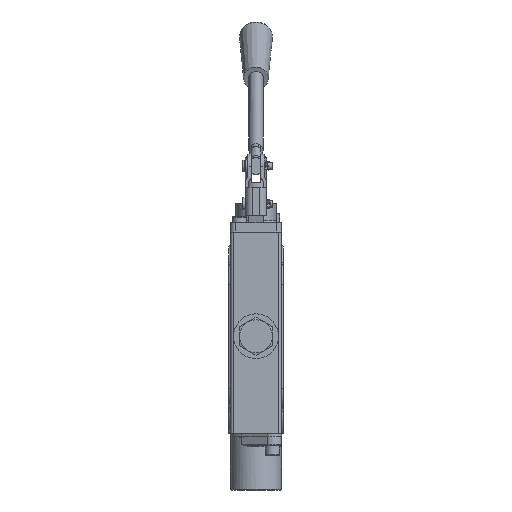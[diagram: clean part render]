
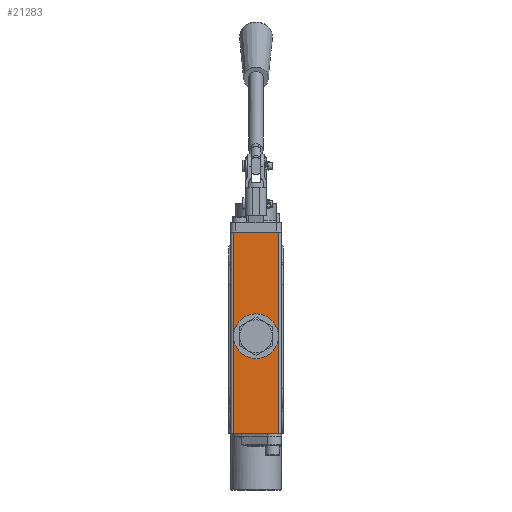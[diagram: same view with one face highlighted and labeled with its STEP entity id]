
A CAD part, front view. The second image highlights one B-rep face of the part: STEP entity #21283.
In plain terms, the highlighted planar face has unit normal (0, -1, 0).
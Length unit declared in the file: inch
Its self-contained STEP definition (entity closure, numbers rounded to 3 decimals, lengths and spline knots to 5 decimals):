
#9562=CARTESIAN_POINT('',(0.6095,-1.656,0.093));
#9563=VERTEX_POINT('',#9562);
#9571=CARTESIAN_POINT('',(-0.6095,-1.656,0.093));
#9572=VERTEX_POINT('',#9571);
#9573=CARTESIAN_POINT('',(-0.6095,-1.656,0.093));
#9574=DIRECTION('',(1.0,0.0,0.0));
#9575=VECTOR('',#9574,1.219);
#9576=LINE('',#9573,#9575);
#9577=EDGE_CURVE('',#9572,#9563,#9576,.T.);
#21159=CARTESIAN_POINT('',(-0.6095,-1.656,5.437));
#21160=VERTEX_POINT('',#21159);
#21170=CARTESIAN_POINT('',(-0.6095,-1.656,0.093));
#21171=DIRECTION('',(0.0,0.0,1.0));
#21172=VECTOR('',#21171,5.344);
#21173=LINE('',#21170,#21172);
#21174=EDGE_CURVE('',#9572,#21160,#21173,.T.);
#21249=CARTESIAN_POINT('',(0.6715,-1.656,0.0));
#21250=DIRECTION('',(0.0,-1.0,0.0));
#21251=DIRECTION('',(0.0,0.0,-1.0));
#21252=AXIS2_PLACEMENT_3D('',#21249,#21250,#21251);
#21253=PLANE('',#21252);
#21254=CARTESIAN_POINT('',(0.6095,-1.656,5.437));
#21255=VERTEX_POINT('',#21254);
#21256=CARTESIAN_POINT('',(0.6095,-1.656,5.437));
#21257=DIRECTION('',(-1.0,0.0,0.0));
#21258=VECTOR('',#21257,1.219);
#21259=LINE('',#21256,#21258);
#21260=EDGE_CURVE('',#21255,#21160,#21259,.T.);
#21261=ORIENTED_EDGE('',*,*,#21260,.T.);
#21262=ORIENTED_EDGE('',*,*,#21174,.F.);
#21263=ORIENTED_EDGE('',*,*,#9577,.T.);
#21264=CARTESIAN_POINT('',(0.6095,-1.656,5.437));
#21265=DIRECTION('',(0.0,0.0,-1.0));
#21266=VECTOR('',#21265,5.344);
#21267=LINE('',#21264,#21266);
#21268=EDGE_CURVE('',#21255,#9563,#21267,.T.);
#21269=ORIENTED_EDGE('',*,*,#21268,.F.);
#21270=EDGE_LOOP('',(#21261,#21262,#21263,#21269));
#21271=FACE_OUTER_BOUND('',#21270,.T.);
#21272=CARTESIAN_POINT('',(0.594,-1.656,2.671));
#21273=VERTEX_POINT('',#21272);
#21274=CARTESIAN_POINT('',(0.,-1.656,2.671));
#21275=DIRECTION('',(0.0,1.0,0.0));
#21276=DIRECTION('',(1.0,0.0,0.0));
#21277=AXIS2_PLACEMENT_3D('',#21274,#21275,#21276);
#21278=CIRCLE('',#21277,0.594);
#21279=EDGE_CURVE('',#21273,#21273,#21278,.T.);
#21280=ORIENTED_EDGE('',*,*,#21279,.T.);
#21281=EDGE_LOOP('',(#21280));
#21282=FACE_BOUND('',#21281,.T.);
#21283=ADVANCED_FACE('',(#21271,#21282),#21253,.T.);
